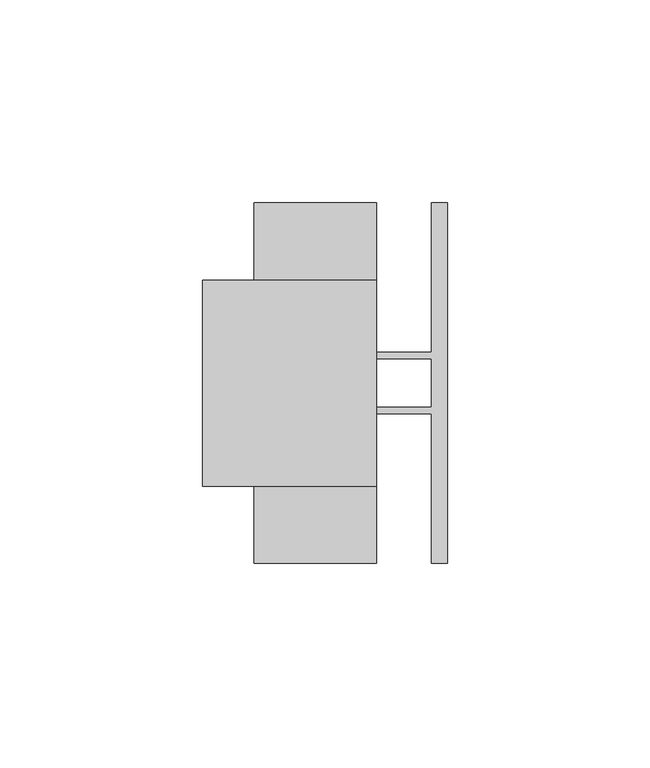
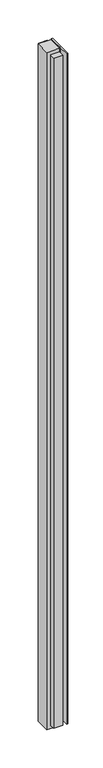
"""IFC4 building model written with IfcOpenShell, lengths in millimetres: furniture geometry, Allsteel - Aspect - Trim - Door Frame to Dry Wall : Allsteel - Aspect - Trim - Door Frame to Dry Wall."""

from ifc_helpers import new_model, si_unit, frame, origin, place, context, project, spatial, polyline, outline, extrude, faceted_brep, source, transform, mapped, element, save


def furniture_7b961c94(model_context):
    return source(origin(), model_context, "Body", "SolidModel", [
        extrude(outline(polyline([(13.5255, -44.45), (13.5255, -7.5565), (-27.7495, -7.5565), (-27.7495, -5.969), (13.5255, -5.969), (13.5255, 5.969), (-11.8745, 5.969), (-11.8745, 7.5565), (13.5255, 7.5565), (13.5255, 44.45), (17.4625, 44.45), (17.4625, -44.45), (13.5255, -44.45)])), frame((0.0, 0.0, 12.7), z_axis=(0.0, 0.0, 1.0), x_axis=(1.0, 0.0, 0.0)), (0.0, 0.0, 1.0), 2413.0),
        faceted_brep([(0.0, 25.4, 2438.4), (-42.8625, 25.4, 2438.4), (-42.8625, -25.4, 2438.4), (0.0, -25.4, 2438.4), (0.0, 9.525, 2425.7), (0.0, -9.525, 2425.7), (-30.1625, -9.525, 2425.7), (-30.1625, 9.525, 2425.7), (0.0, 25.4, 2425.7), (-30.1625, 25.4, 2425.7), (-30.1625, 25.4, 12.7), (0.0, 25.4, 12.7), (0.0, 25.4, 0.0), (-42.8625, 25.4, 0.0), (-42.8625, -25.4, 0.0), (0.0, -25.4, 0.0), (0.0, -25.4, 12.7), (-30.1625, -25.4, 12.7), (-30.1625, -25.4, 2425.7), (0.0, -25.4, 2425.7), (0.0, -44.45, 2425.7), (0.0, -44.45, 12.7), (0.0, 44.45, 12.7), (0.0, 44.45, 2425.7), (0.0, 9.525, 12.7), (0.0, -9.525, 12.7), (-30.1625, -44.45, 2425.7), (-30.1625, 44.45, 2425.7), (-30.1625, 44.45, 12.7), (-30.1625, -44.45, 12.7), (-30.1625, -9.525, 12.7), (-30.1625, 9.525, 12.7)], [[[0, 1, 2, 3]], [[4, 5, 6, 7]], [[1, 0, 8, 9, 10, 11, 12, 13]], [[2, 1, 13, 14]], [[3, 2, 14, 15, 16, 17, 18, 19]], [[0, 3, 19, 20, 21, 16, 15, 12, 11, 22, 23, 8], [4, 24, 25, 5]], [[18, 26, 20, 19]], [[23, 27, 9, 8]], [[10, 28, 22, 11]], [[21, 29, 17, 16]], [[26, 18, 17, 29]], [[20, 26, 29, 21]], [[5, 25, 30, 6]], [[6, 30, 31, 7]], [[7, 31, 24, 4]], [[27, 23, 22, 28]], [[9, 27, 28, 10]], [[25, 24, 31, 30]], [[12, 15, 14, 13]]]),
    ])


if __name__ == "__main__":
    model = new_model("IFC4")
    model_context = context("Model", 3, world=origin())
    ifc_project = project(units=[si_unit("LENGTHUNIT", "METRE", prefix="MILLI")], contexts=[model_context])
    site = spatial("IfcSite", under=ifc_project)
    building = spatial("IfcBuilding", under=site)
    placement = place(None, origin())
    furniture_shape = furniture_7b961c94(model_context)
    element("IfcFurniture", 1, ObjectType="Allsteel - Aspect - Trim - Door Frame to Dry Wall : Allsteel - Aspect - Trim - Door Frame to Dry Wall", at=placement, inside=building, context=model_context, shape_type="MappedRepresentation", body=[
        mapped(furniture_shape, transform((0.0, 0.0, 0.0), x_axis=(1.0, 0.0, 0.0), y_axis=(0.0, 1.0, 0.0), z_axis=(0.0, 0.0, 1.0))),
    ])
    save(model, "model.ifc")
